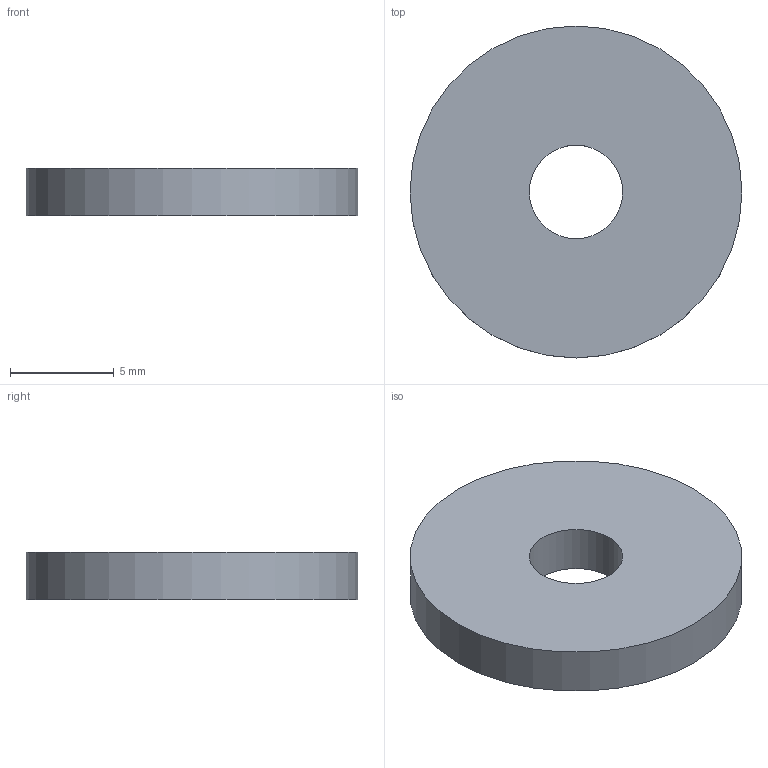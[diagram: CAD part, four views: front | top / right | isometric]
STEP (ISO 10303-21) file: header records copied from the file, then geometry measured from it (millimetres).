
FILE_DESCRIPTION(/* description */ (''),/* implementation_level */ '2;1');
FILE_NAME(/* name */ '',/* time_stamp */ '2024-04-08T11:17:09+09:00',/* author */ ('jhkim'),/* organization */ (''),/* preprocessor_version */ 'ST-DEVELOPER v20',/* originating_system */ 'Autodesk Inventor 2025',/* authorisation */ '');
FILE_SCHEMA (('AUTOMOTIVE_DESIGN { 1 0 10303 214 3 1 1 }'));
Length unit declared in the file: millimetre
Products named in the file (1): 앤드 캡
Bounding box: 16 x 16 x 2.3 mm (x, y, z)
Volume: 425.9 mm3; surface area: 518.4 mm2
Topology: 1 solids, 1 shells, 4 faces, 6 edges, 4 vertices
Faces by surface type: cylinder 2, plane 2
Full cylindrical faces by diameter (mm): 4.5 x1, 16 x1
Entity records: 141 total; most frequent: DIRECTION 20, CARTESIAN_POINT 15, ORIENTED_EDGE 12, AXIS2_PLACEMENT_3D 9, EDGE_LOOP 6, EDGE_CURVE 6, FACE_OUTER_BOUND 4, CIRCLE 4
